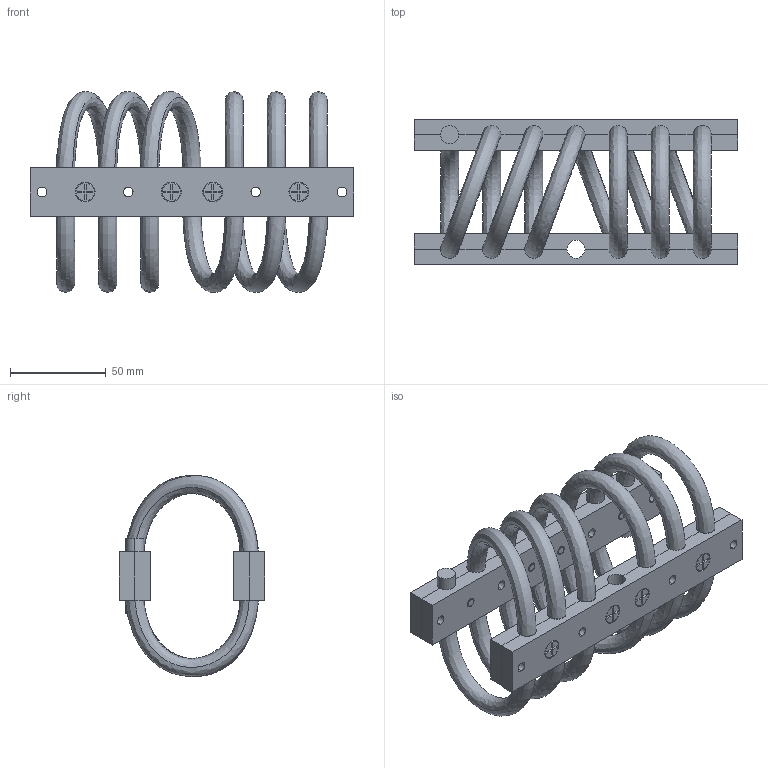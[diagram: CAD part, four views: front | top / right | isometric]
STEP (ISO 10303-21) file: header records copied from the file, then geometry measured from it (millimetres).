
FILE_DESCRIPTION (( 'STEP AP214' ), '1' );
FILE_NAME ('WR12-406-6DM.STEP', '2018-12-07T10:00:26', ( 'user' ), ( 'Microsoft' ), 'SwSTEP 2.0', 'SolidWorks 2016', '' );
FILE_SCHEMA (( 'AUTOMOTIVE_DESIGN' ));
Length unit declared in the file: millimetre
Products named in the file (1): WR12-406-6DM
Bounding box: 169.2 x 76 x 105.01 mm (x, y, z)
Volume: 234431.5 mm3; surface area: 108868 mm2
Topology: 26 solids, 26 shells, 484 faces, 1180 edges, 772 vertices
Faces by surface type: plane 216, cylinder 194, cone 48, bspline 26
Entity records: 25706 total; most frequent: CARTESIAN_POINT 13222, ORIENTED_EDGE 2360, DIRECTION 2348, EDGE_CURVE 1180, AXIS2_PLACEMENT_3D 843, VERTEX_POINT 772, LINE 662, VECTOR 662
